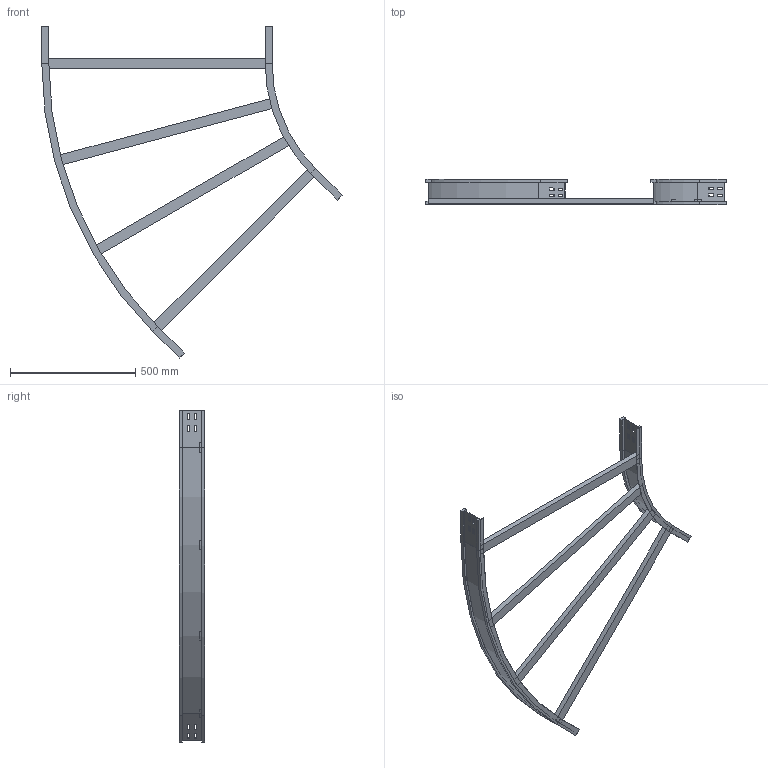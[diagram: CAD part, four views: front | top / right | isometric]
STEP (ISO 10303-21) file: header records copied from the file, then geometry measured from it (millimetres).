
FILE_DESCRIPTION (( 'STEP AP214' ), '1' );
FILE_NAME ('11S6D900.step', '2025-02-21T16:04:04', ( '' ), ( '' ), 'SwSTEP 2.0', 'SolidWorks 2023', '' );
FILE_SCHEMA (( 'AUTOMOTIVE_DESIGN' ));
Length unit declared in the file: millimetre
Products named in the file (4): TRAVERSINO_900; LONGH.INTERNO 45°_H100_R600; LONGH.ESTERNO 45°_H100_R600+900; 11S6D900
Assembly tree (6 placements, depth 2):
  11S6D900
    LONGH.INTERNO 45°_H100_R600
    LONGH.ESTERNO 45°_H100_R600+900
    TRAVERSINO_900  x4
Bounding box: 1197.17 x 100 x 1323.09 mm (x, y, z)
Volume: 4093590.5 mm3; surface area: 1105233.8 mm2
Topology: 6 solids, 6 shells, 164 faces, 408 edges, 256 vertices
Faces by surface type: plane 152, cylinder 12
Entity records: 4485 total; most frequent: CARTESIAN_POINT 759, ORIENTED_EDGE 744, DIRECTION 706, EDGE_CURVE 372, LINE 348, VECTOR 348, VERTEX_POINT 232, AXIS2_PLACEMENT_3D 179
